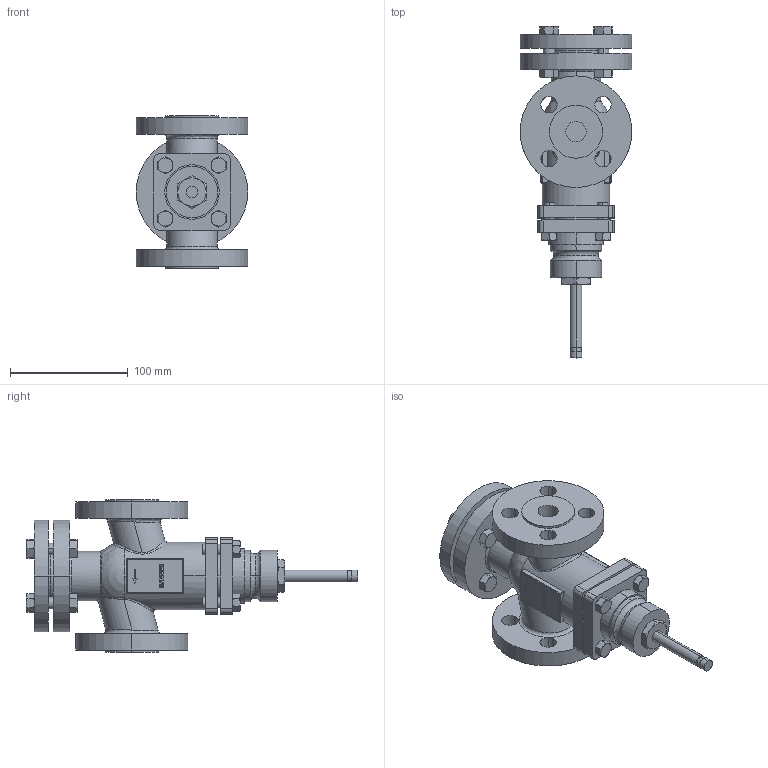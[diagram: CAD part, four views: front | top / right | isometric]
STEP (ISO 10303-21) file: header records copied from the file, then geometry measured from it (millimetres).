
FILE_DESCRIPTION((''),'2;1');
FILE_NAME('000190.stp','2006-10-04T17:25:53',(''),(''),'Mechanical Desktop 2006','Mechanical Desktop 2006',', , ');
FILE_SCHEMA(('AUTOMOTIVE_DESIGN { 1 2 10303 214 0 1 1 1 }'));
Length unit declared in the file: millimetre
Products named in the file (1): Product
Bounding box: 95 x 282.5 x 130 mm (x, y, z)
Volume: 878205.7 mm3; surface area: 169730.9 mm2
Topology: 49 solids, 49 shells, 728 faces, 1844 edges, 1211 vertices
Faces by surface type: cylinder 292, plane 285, bspline 110, cone 28, sphere 9, torus 4
Entity records: 23927 total; most frequent: CARTESIAN_POINT 6715, ORIENTED_EDGE 3668, DIRECTION 3506, EDGE_CURVE 1834, AXIS2_PLACEMENT_3D 1298, VERTEX_POINT 1211, VECTOR 910, LINE 910
